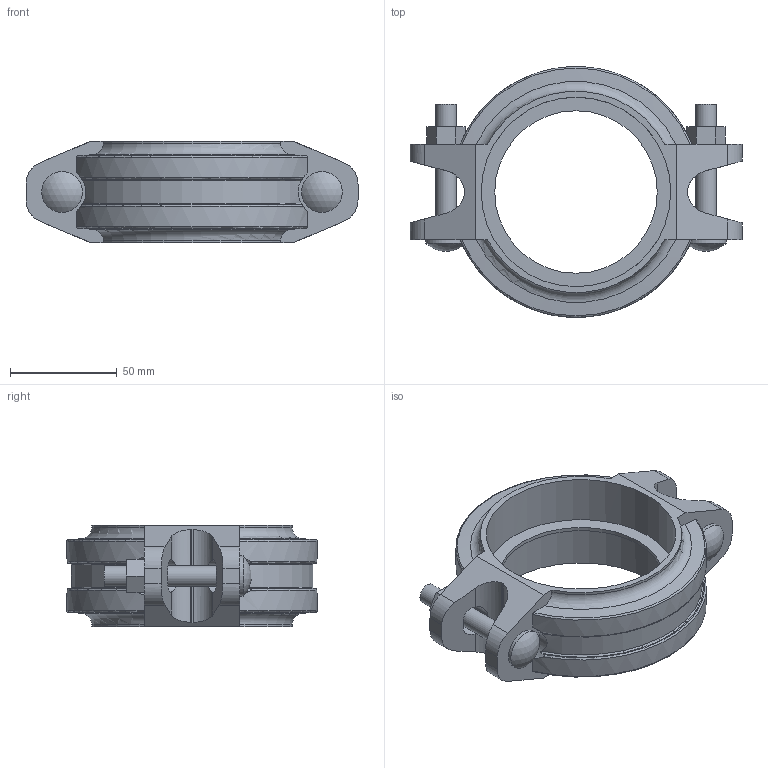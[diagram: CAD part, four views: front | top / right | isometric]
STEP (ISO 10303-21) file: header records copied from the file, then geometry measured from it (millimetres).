
FILE_DESCRIPTION(/* description */ ('VIC STYLE 005H FIRELOCK RIGID COUPLING','CAx-IF Rec.Pracs.---Representation and Presentation of Product Manufacturing Information (PMI)---4.0---2014-10-13'),/* implementation_level */ '2;1');
FILE_NAME(/* name */ 'C:\Users\Vjadhav\Desktop\CAD for Inventor\1\Coupling bolt thickness\005H\STEP\Victaulic_FP-FireLock_Coupling Rigid_Style 005H (OGS)\Victaulic_FP-FireLock_Coupling Rigid_Style 005H (OGS)_3 (80).stp',/* time_stamp */ '2022-03-28T11:24:51+06:00',/* author */ ('jheald'),/* organization */ ('Victaulic'),/* preprocessor_version */ 'ST-DEVELOPER v17.2',/* originating_system */ 'Autodesk Inventor 2019',/* authorisation */ '');
FILE_SCHEMA (('AP242_MANAGED_MODEL_BASED_3D_ENGINEERING_MIM_LF { 1 0 10303 442 1 1 4 }'));
Length unit declared in the file: inch
Products named in the file (1): 005H-03.0
Bounding box: 155.7 x 117.6 x 47.75 mm (x, y, z)
Volume: 207838.8 mm3; surface area: 54162.8 mm2
Topology: 1 solids, 1 shells, 121 faces, 357 edges, 242 vertices
Faces by surface type: plane 56, cylinder 43, torus 16, cone 4, sphere 2
Full cylindrical faces by diameter (mm): 9.525 x4, 19.05 x2, 76.2 x1, 88.9 x2
Entity records: 4892 total; most frequent: CARTESIAN_POINT 1382, ORIENTED_EDGE 714, DIRECTION 685, EDGE_CURVE 357, AXIS2_PLACEMENT_3D 253, VERTEX_POINT 242, LINE 179, VECTOR 179
